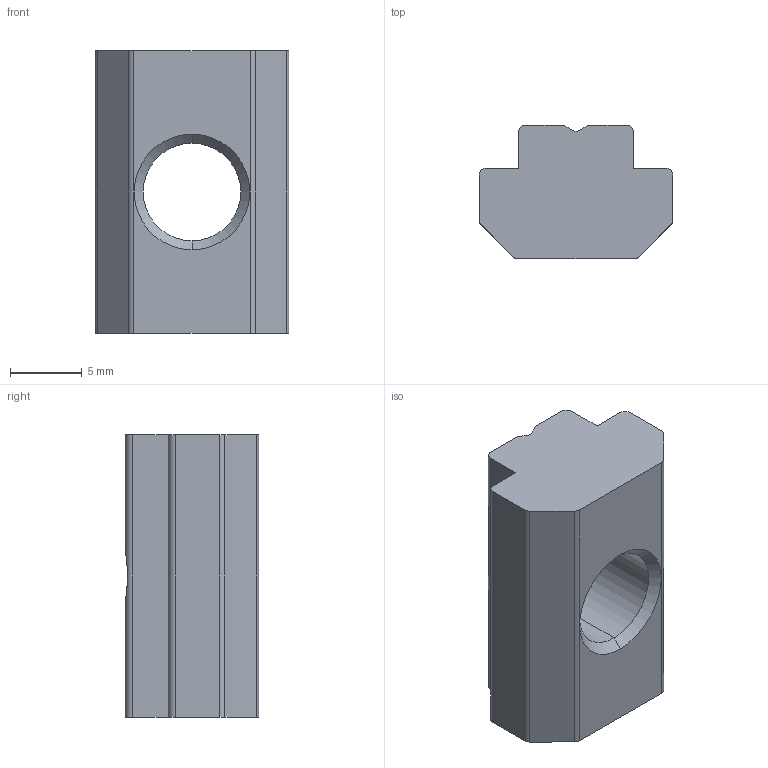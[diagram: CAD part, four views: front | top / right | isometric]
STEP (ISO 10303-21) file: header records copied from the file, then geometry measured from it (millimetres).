
FILE_DESCRIPTION (( 'STEP AP214' ), '1' );
FILE_NAME ('1.2131 T-uramutteri M8C.STEP', '2024-06-26T12:02:56', ( '' ), ( '' ), 'SwSTEP 2.0', 'SolidWorks 2024', '' );
FILE_SCHEMA (( 'AUTOMOTIVE_DESIGN' ));
Length unit declared in the file: millimetre
Products named in the file (1): 1.2131 T-uramutteri M8C
Bounding box: 13.5 x 9.3 x 19.7 mm (x, y, z)
Volume: 1668.7 mm3; surface area: 1139.3 mm2
Topology: 1 solids, 1 shells, 39 faces, 110 edges, 72 vertices
Faces by surface type: plane 19, cylinder 16, cone 4
Entity records: 1321 total; most frequent: CARTESIAN_POINT 284, ORIENTED_EDGE 220, DIRECTION 208, EDGE_CURVE 110, AXIS2_PLACEMENT_3D 72, VERTEX_POINT 72, LINE 64, VECTOR 64
